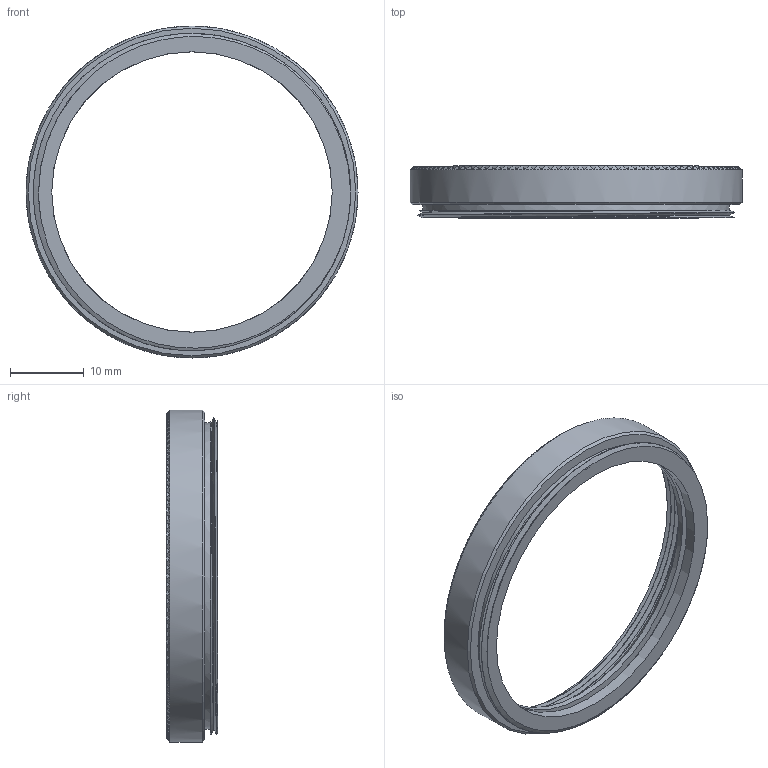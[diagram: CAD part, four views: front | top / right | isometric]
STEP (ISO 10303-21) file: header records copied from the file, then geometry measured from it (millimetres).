
FILE_DESCRIPTION(/* description */ ('STEP AP214'),/* implementation_level */ '2;1');
FILE_NAME(/* name */ 'M43.step',/* time_stamp */ '2025-10-23T15:21:04-05:00',/* author */ (''),/* organization */ (''),/* preprocessor_version */ 'ST-DEVELOPER v20.1',/* originating_system */ 'Autodesk Translation Framework v14.17.0.0',/* authorisation */ '');
FILE_SCHEMA (('AUTOMOTIVE_DESIGN { 1 0 10303 214 3 1 1 }'));
Length unit declared in the file: millimetre
Products named in the file (7): 2025-10-23-15-20-32-066; M43 assembly; M43 barrel; M43 retainer; M43 assembly_1; M43 barrel_1; M43 retainer_1
Assembly tree (6 placements, depth 3):
  2025-10-23-15-20-32-066
    M43 assembly
      M43 barrel
      M43 retainer
    M43 assembly_1
      M43 barrel_1
      M43 retainer_1
Bounding box: 45 x 7 x 45 mm (x, y, z)
Volume: 1804 mm3; surface area: 4950.9 mm2
Topology: 2 solids, 2 shells, 545 faces, 1242 edges, 706 vertices
Faces by surface type: plane 377, cone 123, cylinder 34, bspline 11
Full cylindrical faces by diameter (mm): 38 x2, 40.2 x1, 41.5 x5, 41.589 x1, 42.892 x5, 43 x2, 45 x1
Entity records: 18168 total; most frequent: CARTESIAN_POINT 6404, DIRECTION 2541, ORIENTED_EDGE 2484, EDGE_CURVE 1242, AXIS2_PLACEMENT_3D 1063, VERTEX_POINT 706, EDGE_LOOP 554, FACE_OUTER_BOUND 545
